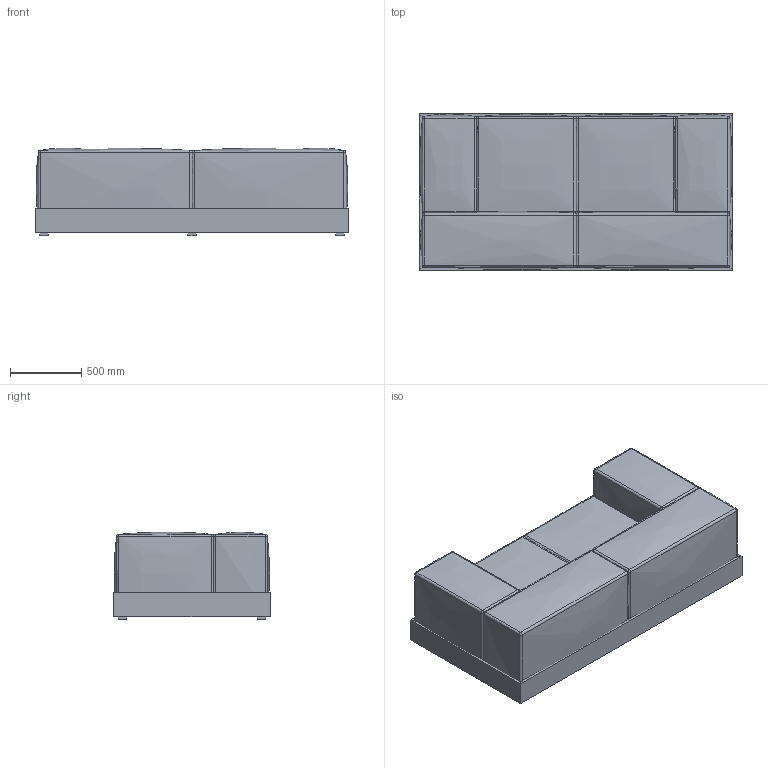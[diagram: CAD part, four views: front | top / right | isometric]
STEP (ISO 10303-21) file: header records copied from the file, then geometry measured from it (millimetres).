
FILE_DESCRIPTION(/* description */ (''),/* implementation_level */ '2;1');
FILE_NAME(/* name */ 'Polp1 220 brc.step',/* time_stamp */ '2024-01-07T10:00:43+01:00',/* author */ (''),/* organization */ (''),/* preprocessor_version */ 'ST-DEVELOPER v20',/* originating_system */ 'Autodesk Translation Framework v12.14.0.127',/* authorisation */ '');
FILE_SCHEMA (('AUTOMOTIVE_DESIGN { 1 0 10303 214 3 1 1 }'));
Length unit declared in the file: millimetre
Products named in the file (1): Polp1 220 brc
Bounding box: 2200 x 1100 x 615 mm (x, y, z)
Volume: 1164613773.4 mm3; surface area: 19243963.5 mm2
Topology: 22 solids, 22 shells, 252 faces, 484 edges, 276 vertices
Faces by surface type: plane 104, bspline 98, sphere 48, cylinder 2
Entity records: 18400 total; most frequent: CARTESIAN_POINT 13779, ORIENTED_EDGE 968, DIRECTION 802, EDGE_CURVE 484, AXIS2_PLACEMENT_3D 303, VERTEX_POINT 276, FACE_OUTER_BOUND 252, EDGE_LOOP 252
